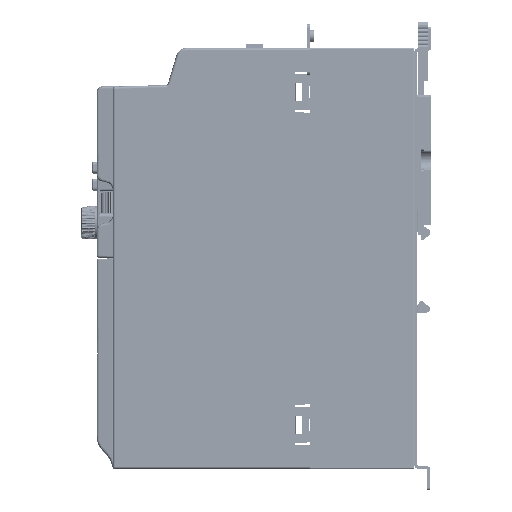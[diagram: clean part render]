
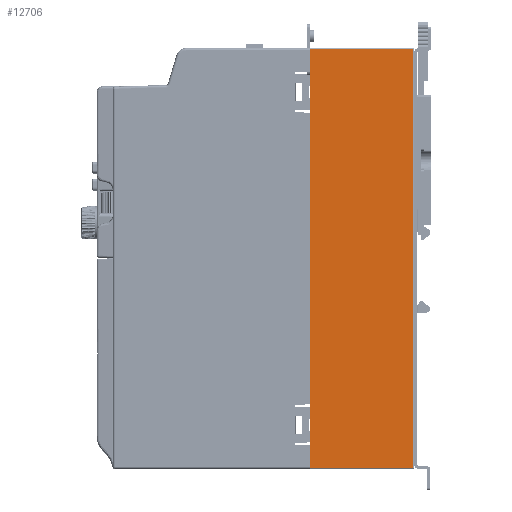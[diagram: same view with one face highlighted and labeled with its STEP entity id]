
A CAD part, left-side view. The second image highlights one B-rep face of the part: STEP entity #12706.
In plain terms, the highlighted planar face has unit normal (1, 0, 0).
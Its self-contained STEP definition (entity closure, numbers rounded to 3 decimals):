
#12655=DIRECTION('',(0.,0.,1.));
#12656=VECTOR('',#12655,209.);
#12657=CARTESIAN_POINT('',(-60.,-51.5,-104.5));
#12658=LINE('',#12657,#12656);
#12662=DIRECTION('',(0.,1.,0.));
#12663=VECTOR('',#12662,51.5);
#12664=CARTESIAN_POINT('',(-60.,-51.5,104.5));
#12665=LINE('',#12664,#12663);
#12669=DIRECTION('',(0.,0.,-1.));
#12670=VECTOR('',#12669,209.);
#12671=CARTESIAN_POINT('',(-60.,0.,104.5));
#12672=LINE('',#12671,#12670);
#12676=DIRECTION('',(0.,-1.,0.));
#12677=VECTOR('',#12676,51.5);
#12678=CARTESIAN_POINT('',(-60.,0.,-104.5));
#12679=LINE('',#12678,#12677);
#12683=CARTESIAN_POINT('',(-60.,-51.5,-104.5));
#12684=CARTESIAN_POINT('',(-60.,-51.5,104.5));
#12685=VERTEX_POINT('',#12683);
#12686=VERTEX_POINT('',#12684);
#12687=CARTESIAN_POINT('',(-60.,0.,104.5));
#12688=VERTEX_POINT('',#12687);
#12689=CARTESIAN_POINT('',(-60.,0.,-104.5));
#12690=VERTEX_POINT('',#12689);
#12691=CARTESIAN_POINT('',(-60.,-25.75,0.));
#12692=DIRECTION('',(1.,0.,0.));
#12693=DIRECTION('',(0.,-1.,0.));
#12694=AXIS2_PLACEMENT_3D('',#12691,#12692,#12693);
#12695=PLANE('',#12694);
#12697=ORIENTED_EDGE('',*,*,#12696,.T.);
#12699=ORIENTED_EDGE('',*,*,#12698,.T.);
#12701=ORIENTED_EDGE('',*,*,#12700,.T.);
#12703=ORIENTED_EDGE('',*,*,#12702,.T.);
#12704=EDGE_LOOP('',(#12697,#12699,#12701,#12703));
#12705=FACE_OUTER_BOUND('',#12704,.F.);
#12696=EDGE_CURVE('',#12685,#12686,#12658,.T.);
#12698=EDGE_CURVE('',#12686,#12688,#12665,.T.);
#12700=EDGE_CURVE('',#12688,#12690,#12672,.T.);
#12702=EDGE_CURVE('',#12690,#12685,#12679,.T.);
#12706=ADVANCED_FACE('',(#12705),#12695,.T.);
